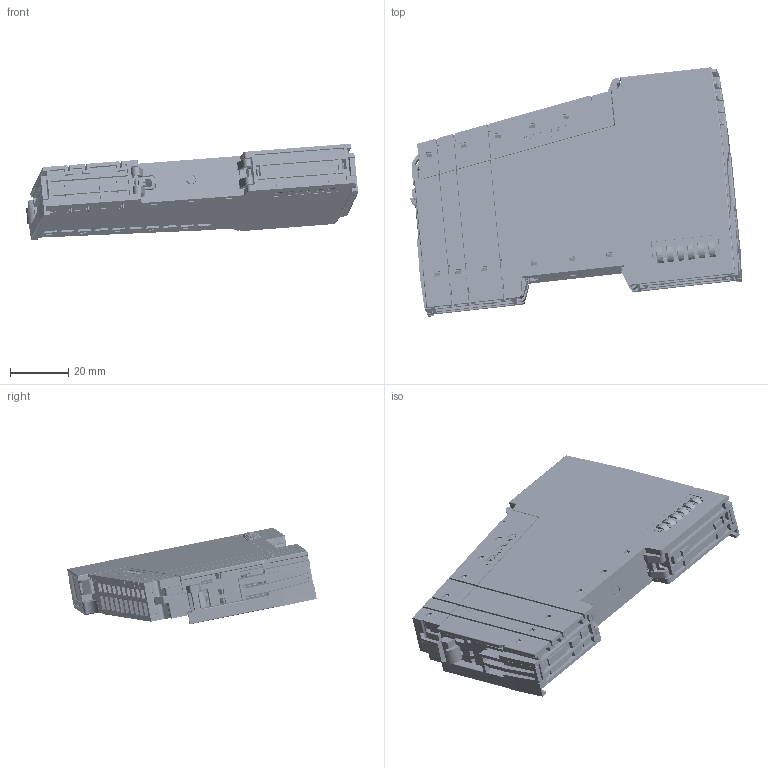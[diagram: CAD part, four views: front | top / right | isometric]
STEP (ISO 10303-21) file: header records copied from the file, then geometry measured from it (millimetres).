
FILE_DESCRIPTION (( 'STEP AP214' ), '1' );
FILE_NAME ('Standart-EA-14er.STEP', '2019-07-17T12:07:11', ( '' ), ( '' ), 'SwSTEP 2.0', 'SolidWorks 2019', '' );
FILE_SCHEMA (( 'AUTOMOTIVE_DESIGN' ));
Length unit declared in the file: millimetre
Products named in the file (97): Schienenkralle_entspannt_1; Links_geschlossen_14_21_optim_Zchng; Federn_zusammen; Abdeckung_Sockel_22_Basaltgrau_optimiert_Basaltgrau_Abdeckung_Sockel_22; SMSE_EA_21; Steckergehäuse_14_11_Steckergeh„use_14_11; Deckplatte Stecker; Schieberhebel_20; Auswerfer_23; ZF1,5_TB20_1; Messer_L飆_21; ZF1,5_TB20_1_ZF1,5_TB20_1; Kopf_PH_3; R點kteil_14_R乧kteil_14er; Links_geschlossen_14_21_optim_Zchng_Links_geschlossen_14_21; Lichtf黨rung_24_Lichtf乭rung_24; Rechts_geschlossen_14_21_optim_Zchng; Messer_Tulpe; Schieber_20; Kodierer_2_Kodierer_2; Geh_Sockel14_21_Basaltgrau; Lichtführung_24; Vorderteil_14_Standart_Vorderteil_14; Schirmkontakt_5; Steckergehäuse_14_11; Kodierer_1; Oberteil_14_23_Staubgrau_Staubgrau_Oberteil_14_23; Abdeckung_Sockel_22_Basaltgrau_optimiert; Beschriftungsstreifen_14er_Beschriftungsstreifen_14er; Basismodul_14_Standart_14er; Kodierer_1_Kodierer_1; Messer_L鰐_21_Messer_L攖_21; Deckel_14_1_Deckel_14_1; Unterteil_14_21_Staubgrau_Staubgrau_Unterteil_14; Kopf_PH_3_Kopf_PH_3; Kodierer_2; Beschriftungsstreifen_14er; Tulpe_Power_Löt_21_optimiert_Tulpe_Power_L”t_21; Stecker_14_mitFedern_10polig_mit Federn; Schieber_20_Schieber_20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
Assembly tree (73 placements, depth 4):
  Schienenkralle_entspannt_1
  Links_geschlossen_14_21_optim_Zchng
  SMSE_EA_21
  Deckplatte Stecker
  Schieberhebel_20
Bounding box: 113.84 x 85.55 x 33.1 mm (x, y, z)
Volume: 41204.3 mm3; surface area: 75552.3 mm2
Topology: 56 solids, 56 shells, 10191 faces, 29333 edges, 19162 vertices
Faces by surface type: plane 6338, cylinder 3419, bspline 273, torus 89, sphere 44, cone 28
Entity records: 244128 total; most frequent: CARTESIAN_POINT 52876, ORIENTED_EDGE 41780, DIRECTION 36897, EDGE_CURVE 20890, VECTOR 15567, LINE 15567, VERTEX_POINT 13693, AXIS2_PLACEMENT_3D 10665
